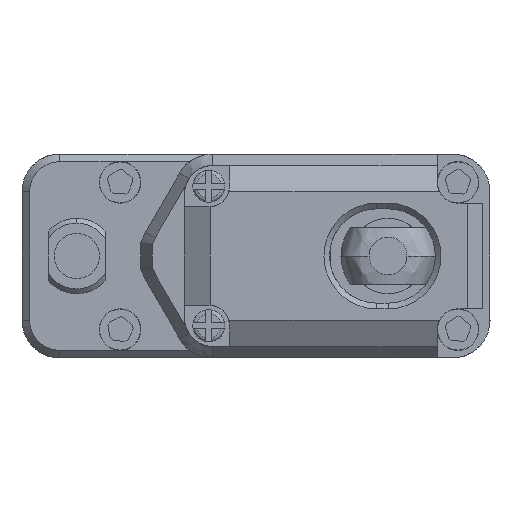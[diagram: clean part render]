
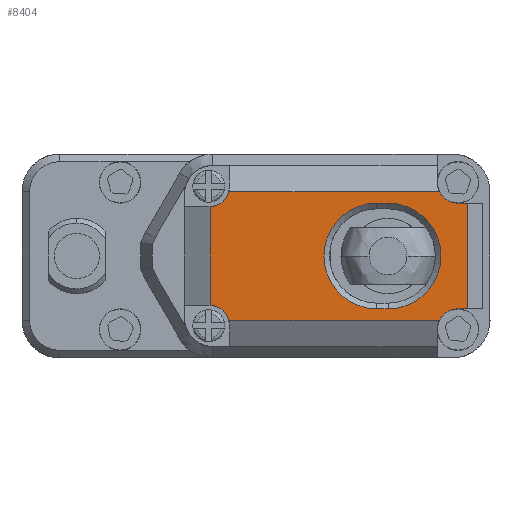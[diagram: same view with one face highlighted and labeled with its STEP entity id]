
A CAD part, front view. The second image highlights one B-rep face of the part: STEP entity #8404.
In plain terms, the highlighted planar face has unit normal (0, -1, 0).
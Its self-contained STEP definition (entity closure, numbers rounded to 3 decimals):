
#204 = EDGE_CURVE ( 'NONE', #29274, #29871, #28337, .T. ) ;
#265 = ORIENTED_EDGE ( 'NONE', *, *, #56957, .T. ) ;
#534 = DIRECTION ( 'NONE',  ( -1., 0., 0. ) ) ;
#844 = EDGE_CURVE ( 'NONE', #29871, #49327, #31049, .T. ) ;
#1022 = EDGE_CURVE ( 'NONE', #49327, #18542, #30657, .T. ) ;
#1110 = LINE ( 'NONE', #48847, #39810 ) ;
#1563 = DIRECTION ( 'NONE',  ( 0., 0., -1. ) ) ;
#2680 = CARTESIAN_POINT ( 'NONE',  ( -2.414, 5.5, -2.603 ) ) ;
#2938 = VERTEX_POINT ( 'NONE', #44843 ) ;
#3227 = DIRECTION ( 'NONE',  ( 1., 0., 0. ) ) ;
#4498 = LINE ( 'NONE', #57014, #24864 ) ;
#4573 = EDGE_CURVE ( 'NONE', #38528, #55394, #59592, .T. ) ;
#4634 = CARTESIAN_POINT ( 'NONE',  ( 7., 5.5, -2.8 ) ) ;
#5190 = DIRECTION ( 'NONE',  ( 0., 0., -1. ) ) ;
#5469 = FACE_BOUND ( 'NONE', #36065, .T. ) ;
#5602 = ORIENTED_EDGE ( 'NONE', *, *, #55081, .T. ) ;
#5752 = ORIENTED_EDGE ( 'NONE', *, *, #844, .T. ) ;
#5965 = DIRECTION ( 'NONE',  ( 1., 0., 0. ) ) ;
#7505 = EDGE_LOOP ( 'NONE', ( #38557, #62220, #35418, #44658, #265, #60159, #12206, #56597, #5752, #28710 ) ) ;
#7667 = AXIS2_PLACEMENT_3D ( 'NONE', #24014, #40126, #1563 ) ;
#7972 = LINE ( 'NONE', #17442, #12310 ) ;
#8404 = ADVANCED_FACE ( 'NONE', ( #9935, #5469 ), #24461, .T. ) ;
#9935 = FACE_OUTER_BOUND ( 'NONE', #7505, .T. ) ;
#12206 = ORIENTED_EDGE ( 'NONE', *, *, #27535, .T. ) ;
#12310 = VECTOR ( 'NONE', #3227, 1000. ) ;
#12994 = EDGE_CURVE ( 'NONE', #55394, #21672, #1110, .T. ) ;
#14516 = DIRECTION ( 'NONE',  ( 0., 1., 0. ) ) ;
#15972 = CIRCLE ( 'NONE', #33214, 1.1 ) ;
#16339 = DIRECTION ( 'NONE',  ( 0., 0., -1. ) ) ;
#16620 = AXIS2_PLACEMENT_3D ( 'NONE', #45652, #17164, #35217 ) ;
#17007 = CARTESIAN_POINT ( 'NONE',  ( -2.5, 5.5, 3.7 ) ) ;
#17164 = DIRECTION ( 'NONE',  ( 0., -1., 0. ) ) ;
#17442 = CARTESIAN_POINT ( 'NONE',  ( 4.1, 5.5, 3.414 ) ) ;
#17871 = EDGE_CURVE ( 'NONE', #35727, #35213, #29607, .T. ) ;
#18542 = VERTEX_POINT ( 'NONE', #44916 ) ;
#19645 = CARTESIAN_POINT ( 'NONE',  ( 9.713, 5.5, 3.414 ) ) ;
#20423 = CARTESIAN_POINT ( 'NONE',  ( 6.4, 5.5, 2.8 ) ) ;
#20798 = DIRECTION ( 'NONE',  ( 0., 0., -1. ) ) ;
#20824 = DIRECTION ( 'NONE',  ( 1., 0., 0. ) ) ;
#21672 = VERTEX_POINT ( 'NONE', #2680 ) ;
#22443 = DIRECTION ( 'NONE',  ( 0., 0., 1. ) ) ;
#23463 = EDGE_CURVE ( 'NONE', #31020, #35727, #51532, .T. ) ;
#23680 = VECTOR ( 'NONE', #32441, 1000. ) ;
#24014 = CARTESIAN_POINT ( 'NONE',  ( 10.7, 5.5, 3.9 ) ) ;
#24461 = PLANE ( 'NONE',  #16620 ) ;
#24864 = VECTOR ( 'NONE', #33601, 1000. ) ;
#25828 = DIRECTION ( 'NONE',  ( 0., 1., 0. ) ) ;
#26400 = VECTOR ( 'NONE', #30365, 1000. ) ;
#26508 = DIRECTION ( 'NONE',  ( 0., 1., 0. ) ) ;
#27535 = EDGE_CURVE ( 'NONE', #2938, #29274, #15972, .T. ) ;
#28337 = LINE ( 'NONE', #56455, #23680 ) ;
#28710 = ORIENTED_EDGE ( 'NONE', *, *, #1022, .T. ) ;
#29202 = CARTESIAN_POINT ( 'NONE',  ( 10.7, 5.5, -2.8 ) ) ;
#29274 = VERTEX_POINT ( 'NONE', #29202 ) ;
#29281 = EDGE_CURVE ( 'NONE', #2938, #35047, #4498, .T. ) ;
#29607 = CIRCLE ( 'NONE', #32629, 2.8 ) ;
#29871 = VERTEX_POINT ( 'NONE', #45394 ) ;
#30365 = DIRECTION ( 'NONE',  ( -1., 0., 0. ) ) ;
#30657 = LINE ( 'NONE', #39821, #26400 ) ;
#31020 = VERTEX_POINT ( 'NONE', #20423 ) ;
#31049 = LINE ( 'NONE', #45594, #62093 ) ;
#31331 = DIRECTION ( 'NONE',  ( 1., 0., 0. ) ) ;
#31577 = CIRCLE ( 'NONE', #59822, 1.1 ) ;
#32441 = DIRECTION ( 'NONE',  ( 1., 0., 0. ) ) ;
#32629 = AXIS2_PLACEMENT_3D ( 'NONE', #44538, #25828, #16339 ) ;
#33214 = AXIS2_PLACEMENT_3D ( 'NONE', #41092, #26508, #20798 ) ;
#33601 = DIRECTION ( 'NONE',  ( -1., 0., 0. ) ) ;
#34359 = AXIS2_PLACEMENT_3D ( 'NONE', #17007, #49296, #5965 ) ;
#35047 = VERTEX_POINT ( 'NONE', #56827 ) ;
#35101 = DIRECTION ( 'NONE',  ( 0., 1., 0. ) ) ;
#35213 = VERTEX_POINT ( 'NONE', #4634 ) ;
#35217 = DIRECTION ( 'NONE',  ( 0., 0., -1. ) ) ;
#35335 = VECTOR ( 'NONE', #534, 1000. ) ;
#35418 = ORIENTED_EDGE ( 'NONE', *, *, #4573, .T. ) ;
#35727 = VERTEX_POINT ( 'NONE', #46314 ) ;
#36065 = EDGE_LOOP ( 'NONE', ( #51307, #52691, #58676, #5602 ) ) ;
#36197 = CARTESIAN_POINT ( 'NONE',  ( 6.4, 5.5, -2.8 ) ) ;
#38528 = VERTEX_POINT ( 'NONE', #50639 ) ;
#38557 = ORIENTED_EDGE ( 'NONE', *, *, #38799, .T. ) ;
#38799 = EDGE_CURVE ( 'NONE', #18542, #49268, #49048, .T. ) ;
#39810 = VECTOR ( 'NONE', #5190, 1000. ) ;
#39821 = CARTESIAN_POINT ( 'NONE',  ( 11., 5.5, 2.8 ) ) ;
#40126 = DIRECTION ( 'NONE',  ( 0., 1., 0. ) ) ;
#41092 = CARTESIAN_POINT ( 'NONE',  ( 10.7, 5.5, -3.9 ) ) ;
#41590 = EDGE_CURVE ( 'NONE', #35213, #61972, #57745, .T. ) ;
#44538 = CARTESIAN_POINT ( 'NONE',  ( 7., 5.5, 0. ) ) ;
#44658 = ORIENTED_EDGE ( 'NONE', *, *, #12994, .T. ) ;
#44843 = CARTESIAN_POINT ( 'NONE',  ( 9.713, 5.5, -3.414 ) ) ;
#44904 = CARTESIAN_POINT ( 'NONE',  ( -2.5, 5.5, -3.7 ) ) ;
#44916 = CARTESIAN_POINT ( 'NONE',  ( 10.7, 5.5, 2.8 ) ) ;
#45394 = CARTESIAN_POINT ( 'NONE',  ( 11.2, 5.5, -2.8 ) ) ;
#45594 = CARTESIAN_POINT ( 'NONE',  ( 11.2, 5.5, 0. ) ) ;
#45652 = CARTESIAN_POINT ( 'NONE',  ( 4.1, 5.5, 0. ) ) ;
#46314 = CARTESIAN_POINT ( 'NONE',  ( 7., 5.5, 2.8 ) ) ;
#48431 = AXIS2_PLACEMENT_3D ( 'NONE', #57884, #14516, #54408 ) ;
#48847 = CARTESIAN_POINT ( 'NONE',  ( -2.414, 5.5, 0. ) ) ;
#49048 = CIRCLE ( 'NONE', #7667, 1.1 ) ;
#49268 = VERTEX_POINT ( 'NONE', #19645 ) ;
#49296 = DIRECTION ( 'NONE',  ( 0., 1., 0. ) ) ;
#49327 = VERTEX_POINT ( 'NONE', #57932 ) ;
#49820 = CARTESIAN_POINT ( 'NONE',  ( -2.414, 5.5, 2.603 ) ) ;
#50639 = CARTESIAN_POINT ( 'NONE',  ( -1.438, 5.5, 3.414 ) ) ;
#51307 = ORIENTED_EDGE ( 'NONE', *, *, #23463, .T. ) ;
#51532 = LINE ( 'NONE', #60718, #55135 ) ;
#52691 = ORIENTED_EDGE ( 'NONE', *, *, #17871, .T. ) ;
#53323 = CARTESIAN_POINT ( 'NONE',  ( 4.1, 5.5, -2.8 ) ) ;
#54408 = DIRECTION ( 'NONE',  ( 0., 0., -1. ) ) ;
#55081 = EDGE_CURVE ( 'NONE', #61972, #31020, #58489, .T. ) ;
#55135 = VECTOR ( 'NONE', #31331, 1000. ) ;
#55394 = VERTEX_POINT ( 'NONE', #49820 ) ;
#56455 = CARTESIAN_POINT ( 'NONE',  ( 11., 5.5, -2.8 ) ) ;
#56597 = ORIENTED_EDGE ( 'NONE', *, *, #204, .T. ) ;
#56827 = CARTESIAN_POINT ( 'NONE',  ( -1.438, 5.5, -3.414 ) ) ;
#56957 = EDGE_CURVE ( 'NONE', #21672, #35047, #31577, .T. ) ;
#57014 = CARTESIAN_POINT ( 'NONE',  ( 4.1, 5.5, -3.414 ) ) ;
#57745 = LINE ( 'NONE', #53323, #35335 ) ;
#57851 = EDGE_CURVE ( 'NONE', #38528, #49268, #7972, .T. ) ;
#57884 = CARTESIAN_POINT ( 'NONE',  ( 6.4, 5.5, 0. ) ) ;
#57932 = CARTESIAN_POINT ( 'NONE',  ( 11.2, 5.5, 2.8 ) ) ;
#58489 = CIRCLE ( 'NONE', #48431, 2.8 ) ;
#58676 = ORIENTED_EDGE ( 'NONE', *, *, #41590, .T. ) ;
#59592 = CIRCLE ( 'NONE', #34359, 1.1 ) ;
#59822 = AXIS2_PLACEMENT_3D ( 'NONE', #44904, #35101, #20824 ) ;
#60159 = ORIENTED_EDGE ( 'NONE', *, *, #29281, .F. ) ;
#60718 = CARTESIAN_POINT ( 'NONE',  ( 4.1, 5.5, 2.8 ) ) ;
#61972 = VERTEX_POINT ( 'NONE', #36197 ) ;
#62093 = VECTOR ( 'NONE', #22443, 1000. ) ;
#62220 = ORIENTED_EDGE ( 'NONE', *, *, #57851, .F. ) ;
